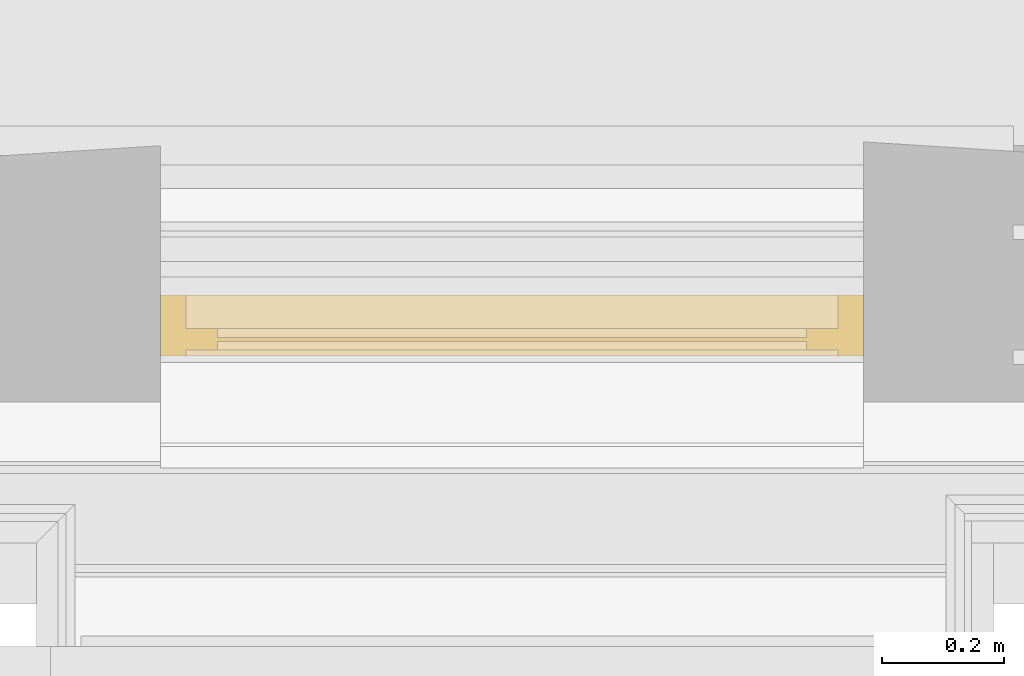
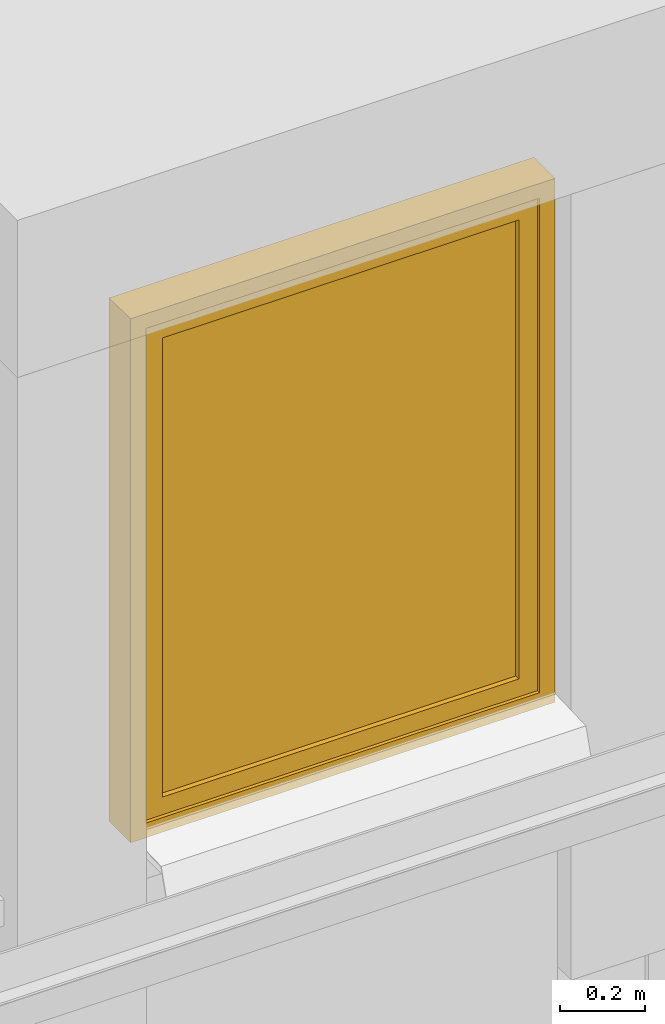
# One storey, part 140 of 183: 1 window.
"""IFC2X3 building model written with IfcOpenShell, lengths in metres."""

from ifc_helpers import new_model, entity, si_unit, converted_unit, derived_unit, money_unit, direction, frame, origin_with_axes, place, context, subcontext, project, spatial, faceted_brep, material, type_object, element, save


model = new_model("IFC2X3")

# Units and contexts
model_context = context("Model", 3, precision=1e-05, world=origin_with_axes(), true_north=direction((0.0, 1.0)))
body_context = subcontext(model_context, "Body", "Model", "MODEL_VIEW", scale=1.0)
ifc_project = project(units=[si_unit("LENGTHUNIT", "METRE"), si_unit("AREAUNIT", "SQUARE_METRE"), si_unit("VOLUMEUNIT", "CUBIC_METRE"), si_unit("ABSORBEDDOSEUNIT", "GRAY"), si_unit("AMOUNTOFSUBSTANCEUNIT", "MOLE"), si_unit("DOSEEQUIVALENTUNIT", "SIEVERT"), si_unit("ELECTRICCAPACITANCEUNIT", "FARAD"), si_unit("ELECTRICCHARGEUNIT", "COULOMB"), si_unit("ELECTRICCONDUCTANCEUNIT", "SIEMENS"), si_unit("ELECTRICCURRENTUNIT", "AMPERE"), si_unit("ELECTRICRESISTANCEUNIT", "OHM"), si_unit("ELECTRICVOLTAGEUNIT", "VOLT"), si_unit("ENERGYUNIT", "JOULE"), si_unit("FORCEUNIT", "NEWTON"), si_unit("FREQUENCYUNIT", "HERTZ"), si_unit("ILLUMINANCEUNIT", "LUX"), si_unit("INDUCTANCEUNIT", "HENRY"), si_unit("LUMINOUSFLUXUNIT", "LUMEN"), si_unit("LUMINOUSINTENSITYUNIT", "CANDELA"), si_unit("MAGNETICFLUXDENSITYUNIT", "TESLA"), si_unit("MAGNETICFLUXUNIT", "WEBER"), si_unit("MASSUNIT", "GRAM"), converted_unit("PLANEANGLEUNIT", "degree", entity("IfcReal", 0.0174532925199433), si_unit("PLANEANGLEUNIT", "RADIAN"), dimensions=[0, 0, 0, 0, 0, 0, 0]), si_unit("POWERUNIT", "WATT"), si_unit("PRESSUREUNIT", "PASCAL"), si_unit("RADIOACTIVITYUNIT", "BECQUEREL"), si_unit("SOLIDANGLEUNIT", "STERADIAN"), si_unit("THERMODYNAMICTEMPERATUREUNIT", "KELVIN"), si_unit("TIMEUNIT", "SECOND"), derived_unit("ACCELERATIONUNIT", [(si_unit("LENGTHUNIT", "METRE"), 1), (si_unit("TIMEUNIT", "SECOND"), -2)]), derived_unit("ANGULARVELOCITYUNIT", [(converted_unit("PLANEANGLEUNIT", "degree", entity("IfcReal", 0.0174532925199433), si_unit("PLANEANGLEUNIT", "RADIAN"), dimensions=[0, 0, 0, 0, 0, 0, 0]), 1), (si_unit("TIMEUNIT", "SECOND"), -1)]), derived_unit("CURVATUREUNIT", [(converted_unit("PLANEANGLEUNIT", "degree", entity("IfcReal", 0.0174532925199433), si_unit("PLANEANGLEUNIT", "RADIAN"), dimensions=[0, 0, 0, 0, 0, 0, 0]), 1), (si_unit("LENGTHUNIT", "METRE"), -1)]), derived_unit("DYNAMICVISCOSITYUNIT", [(si_unit("PRESSUREUNIT", "PASCAL"), 1), (si_unit("TIMEUNIT", "SECOND"), 1)]), derived_unit("HEATFLUXDENSITYUNIT", [(si_unit("POWERUNIT", "WATT"), 1), (si_unit("LENGTHUNIT", "METRE"), -2)]), derived_unit("HEATINGVALUEUNIT", [(si_unit("ENERGYUNIT", "JOULE"), 1), (si_unit("MASSUNIT", "GRAM"), -1)]), derived_unit("INTEGERCOUNTRATEUNIT", [(si_unit("TIMEUNIT", "SECOND"), -1)]), derived_unit("IONCONCENTRATIONUNIT", [(si_unit("MASSUNIT", "GRAM"), 1), (si_unit("VOLUMEUNIT", "CUBIC_METRE"), -1)]), derived_unit("ISOTHERMALMOISTURECAPACITYUNIT", [(si_unit("VOLUMEUNIT", "CUBIC_METRE"), 1), (si_unit("MASSUNIT", "GRAM"), -1)]), derived_unit("KINEMATICVISCOSITYUNIT", [(si_unit("AREAUNIT", "SQUARE_METRE"), 1), (si_unit("TIMEUNIT", "SECOND"), -1)]), derived_unit("LINEARFORCEUNIT", [(si_unit("FORCEUNIT", "NEWTON"), 1), (si_unit("LENGTHUNIT", "METRE"), -1)]), derived_unit("LINEARMOMENTUNIT", [(si_unit("FORCEUNIT", "NEWTON"), 1), (si_unit("LENGTHUNIT", "METRE"), -1)]), derived_unit("LINEARSTIFFNESSUNIT", [(si_unit("FORCEUNIT", "NEWTON"), 1), (si_unit("LENGTHUNIT", "METRE"), -1)]), derived_unit("LINEARVELOCITYUNIT", [(si_unit("LENGTHUNIT", "METRE"), 1), (si_unit("TIMEUNIT", "SECOND"), -1)]), derived_unit("LUMINOUSINTENSITYDISTRIBUTIONUNIT", [(si_unit("LUMINOUSINTENSITYUNIT", "CANDELA"), 1), (si_unit("LUMINOUSFLUXUNIT", "LUMEN"), -1)]), derived_unit("MASSDENSITYUNIT", [(si_unit("MASSUNIT", "GRAM"), 1), (si_unit("VOLUMEUNIT", "CUBIC_METRE"), -1)]), derived_unit("MASSFLOWRATEUNIT", [(si_unit("MASSUNIT", "GRAM"), 1), (si_unit("TIMEUNIT", "SECOND"), -1)]), derived_unit("MASSPERLENGTHUNIT", [(si_unit("MASSUNIT", "GRAM"), 1), (si_unit("LENGTHUNIT", "METRE"), -1)]), derived_unit("MODULUSOFELASTICITYUNIT", [(si_unit("FORCEUNIT", "NEWTON"), 1), (si_unit("AREAUNIT", "SQUARE_METRE"), -1)]), derived_unit("MODULUSOFLINEARSUBGRADEREACTIONUNIT", [(si_unit("FORCEUNIT", "NEWTON"), 1), (si_unit("LENGTHUNIT", "METRE"), -2)]), derived_unit("MODULUSOFROTATIONALSUBGRADEREACTIONUNIT", [(si_unit("FORCEUNIT", "NEWTON"), 1), (si_unit("LENGTHUNIT", "METRE"), 1)]), derived_unit("MODULUSOFSUBGRADEREACTIONUNIT", [(si_unit("FORCEUNIT", "NEWTON"), 1), (si_unit("VOLUMEUNIT", "CUBIC_METRE"), -1)]), derived_unit("MOISTUREDIFFUSIVITYUNIT", [(si_unit("VOLUMEUNIT", "CUBIC_METRE"), 1), (si_unit("TIMEUNIT", "SECOND"), -1)]), derived_unit("MOLECULARWEIGHTUNIT", [(si_unit("MASSUNIT", "GRAM"), 1), (si_unit("AMOUNTOFSUBSTANCEUNIT", "MOLE"), -1)]), derived_unit("PLANARFORCEUNIT", [(si_unit("FORCEUNIT", "NEWTON"), 1), (si_unit("LENGTHUNIT", "METRE"), -2)]), derived_unit("ROTATIONALFREQUENCYUNIT", [(si_unit("TIMEUNIT", "SECOND"), -1)]), derived_unit("ROTATIONALMASSUNIT", [(si_unit("MASSUNIT", "GRAM"), 1), (si_unit("LENGTHUNIT", "METRE"), 2)]), derived_unit("ROTATIONALSTIFFNESSUNIT", [(si_unit("FORCEUNIT", "NEWTON"), 1), (si_unit("LENGTHUNIT", "METRE"), 1), (converted_unit("PLANEANGLEUNIT", "degree", entity("IfcReal", 0.0174532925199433), si_unit("PLANEANGLEUNIT", "RADIAN"), dimensions=[0, 0, 0, 0, 0, 0, 0]), -1)]), derived_unit("SECTIONAREAINTEGRALUNIT", [(si_unit("LENGTHUNIT", "METRE"), 5)]), derived_unit("SECTIONMODULUSUNIT", [(si_unit("LENGTHUNIT", "METRE"), 3)]), derived_unit("SHEARMODULUSUNIT", [(si_unit("FORCEUNIT", "NEWTON"), 1), (si_unit("AREAUNIT", "SQUARE_METRE"), -1)]), derived_unit("SOUNDPOWERUNIT", [(si_unit("ENERGYUNIT", "JOULE"), 1), (si_unit("TIMEUNIT", "SECOND"), -1)]), derived_unit("SPECIFICHEATCAPACITYUNIT", [(si_unit("FORCEUNIT", "NEWTON"), 1), (si_unit("MASSUNIT", "GRAM"), -1), (si_unit("THERMODYNAMICTEMPERATUREUNIT", "KELVIN"), -1)]), derived_unit("TEMPERATUREGRADIENTUNIT", [(si_unit("THERMODYNAMICTEMPERATUREUNIT", "KELVIN"), 1), (si_unit("LENGTHUNIT", "METRE"), -1)]), derived_unit("THERMALADMITTANCEUNIT", [(si_unit("POWERUNIT", "WATT"), 1), (si_unit("AREAUNIT", "SQUARE_METRE"), -1), (si_unit("THERMODYNAMICTEMPERATUREUNIT", "KELVIN"), -1)]), derived_unit("THERMALCONDUCTANCEUNIT", [(si_unit("POWERUNIT", "WATT"), 1), (si_unit("LENGTHUNIT", "METRE"), -1), (si_unit("THERMODYNAMICTEMPERATUREUNIT", "KELVIN"), -1)]), derived_unit("THERMALEXPANSIONCOEFFICIENTUNIT", [(si_unit("THERMODYNAMICTEMPERATUREUNIT", "KELVIN"), -1)]), derived_unit("THERMALRESISTANCEUNIT", [(si_unit("AREAUNIT", "SQUARE_METRE"), 1), (si_unit("POWERUNIT", "WATT"), -1)]), derived_unit("THERMALTRANSMITTANCEUNIT", [(si_unit("POWERUNIT", "WATT"), 1), (si_unit("AREAUNIT", "SQUARE_METRE"), -1), (si_unit("THERMODYNAMICTEMPERATUREUNIT", "KELVIN"), -1)]), derived_unit("TORQUEUNIT", [(si_unit("FORCEUNIT", "NEWTON"), 1), (si_unit("LENGTHUNIT", "METRE"), 1)]), derived_unit("VAPORPERMEABILITYUNIT", [(si_unit("MASSUNIT", "GRAM"), 1), (si_unit("TIMEUNIT", "SECOND"), -1)]), derived_unit("VOLUMETRICFLOWRATEUNIT", [(si_unit("VOLUMEUNIT", "CUBIC_METRE"), 1), (si_unit("TIMEUNIT", "SECOND"), -1)]), derived_unit("WARPINGCONSTANTUNIT", [(si_unit("LENGTHUNIT", "METRE"), 6)]), derived_unit("WARPINGMOMENTUNIT", [(si_unit("FORCEUNIT", "NEWTON"), 1), (si_unit("LENGTHUNIT", "METRE"), 2)]), money_unit("GBP")], contexts=[model_context])

# Site, building, storey, space
site_placement = place(None, origin_with_axes())
site = spatial("IfcSite", under=ifc_project, at=site_placement, Name="Site", CompositionType="ELEMENT")
building_placement = place(site_placement, origin_with_axes())
building = spatial("IfcBuilding", under=site, at=building_placement, Name="Building01", CompositionType="ELEMENT")
storey_placement = place(building_placement, frame((0.0, 0.0, 5.15), z_axis=(0.0, 0.0, 1.0), x_axis=(1.0, 0.0, 0.0)))
storey = spatial("IfcBuildingStorey", under=building, at=storey_placement, Name="1F", CompositionType="ELEMENT", Elevation=5.15)
space_placement = place(storey_placement, frame((19.629976, 4.817, 9.81), z_axis=(0.0, 0.0, 1.0), x_axis=(0.0, -1.0, 0.0)))
space = spatial("IfcSpace", under=storey, at=space_placement, Name="2", CompositionType="ELEMENT", InteriorOrExteriorSpace="NOTDEFINED")

# Window
ifc_material = material(Name="A_BSUK_Windows")
window_style = type_object("IfcWindowStyle", Name="A-Awning", ConstructionType="NOTDEFINED", OperationType="USERDEFINED", ParameterTakesPrecedence=False, Sizeable=False)
window_placement = place(storey_placement, frame((21.740024, 0.549939, 10.78), z_axis=(0.0, 0.0, 1.0), x_axis=(1.0, 0.0, 0.0)))
element("IfcWindow", 1, at=window_placement, inside=space, type_object=window_style, material=ifc_material, Name="4.09", ObjectType="A-Awning", OverallHeight=1.50000000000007, OverallWidth=1.15000000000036, context=body_context, shape_type="Brep", body=[
    faceted_brep([(-1.108, 0.0254, 0.042), (-0.042, 0.0254, 0.042), (-0.042, 0.1254, 0.042), (-1.108, 0.1254, 0.042), (-1.108, 0.0254, 1.458), (-1.108, 0.1254, 1.458), (-0.042, 0.0254, 1.458), (-0.042, 0.1254, 1.458), (0.0, 0.0254, 0.0), (0.0, 0.0254, 1.5), (-1.15, 0.0254, 1.5), (-1.15, 0.0254, 0.0), (0.0, 0.1254, 1.5), (-1.15, 0.1254, 1.5), (-1.15, 0.1254, 0.0), (0.0, 0.1254, 0.0)], [[[0, 1, 2, 3]], [[4, 0, 3, 5]], [[6, 4, 5, 7]], [[8, 9, 10, 11], [4, 6, 1, 0]], [[1, 6, 7, 2]], [[12, 13, 10, 9]], [[14, 15, 8, 11]], [[13, 14, 11, 10]], [[13, 12, 15, 14], [2, 7, 5, 3]], [[15, 12, 9, 8]]]),
    faceted_brep([(-1.0572, 0.0354, 0.0928), (-0.0928, 0.0354, 0.0928), (-0.0928, 0.0704, 0.0928), (-1.0572, 0.0704, 0.0928), (-1.0572, 0.0354, 1.4072), (-1.0572, 0.0704, 1.4072), (-0.0928, 0.0354, 1.4072), (-0.0928, 0.0704, 1.4072), (-1.108, 0.0704, 1.458), (-0.042, 0.0704, 1.458), (-0.042, 0.0704, 0.042), (-1.108, 0.0704, 0.042), (-1.108, 0.0354, 1.458), (-0.042, 0.0354, 1.458), (-0.042, 0.0354, 0.042), (-1.108, 0.0354, 0.042)], [[[0, 1, 2, 3]], [[4, 0, 3, 5]], [[6, 4, 5, 7]], [[8, 9, 10, 11], [2, 7, 5, 3]], [[9, 8, 12, 13]], [[10, 9, 13, 14]], [[11, 10, 14, 15]], [[8, 11, 15, 12]], [[14, 13, 12, 15], [4, 6, 1, 0]], [[1, 6, 7, 2]]]),
    faceted_brep([(-0.0928, 0.049725, 0.0928), (-0.0928, 0.056075, 0.0928), (-0.0928, 0.056075, 1.4072), (-0.0928, 0.049725, 1.4072), (-1.0572, 0.049725, 1.4072), (-1.0572, 0.056075, 1.4072), (-1.0572, 0.056075, 0.0928), (-1.0572, 0.049725, 0.0928)], [[[0, 1, 2, 3]], [[4, 5, 6, 7]], [[3, 2, 5, 4]], [[3, 4, 7, 0]], [[7, 6, 1, 0]], [[1, 6, 5, 2]]]),
])

save(model, "model.ifc")
